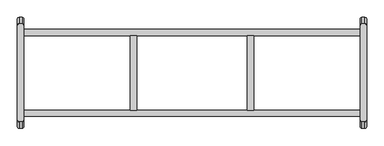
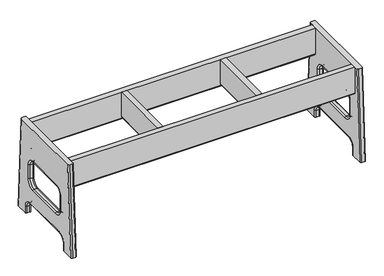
"""IFC4 building model written with IfcOpenShell, lengths in millimetres: furniture geometry, SSL-Childcraft_Outdoor-Bench : 2161365."""

from ifc_helpers import new_model, si_unit, point, frame, frame_2d, origin, place, context, project, spatial, polyline, circle_curve, ellipse_curve, trimmed, segment, composite_curve, outline, extrude, source, transform, mapped, element, save
from ifc_brep_helpers import plane_surface, cylinder_surface, revolved_surface, extruded_surface, advanced_brep


def furniture_a1ef9f8f(model_context):
    return source(origin(), model_context, "Body", "SolidModel", [
        advanced_brep(
        [(12.7652904, -293.6836882, 336.55), (17.5277904, -298.4461882, 336.55), (27.0527904, -298.4461882, 336.55), (31.8152904, -293.6836882, 336.55), (31.8152904, -11.1163118, 336.55), (27.0527904, -6.3538118, 336.55), (17.5277904, -6.3538118, 336.55), (12.7652904, -11.1163118, 336.55), (12.7652904, -312.7375, 0.0), (12.7652904, 7.9375, 0.0), (12.7652904, -34.1179199, 0.0), (12.7652904, -34.1179199, 25.4), (12.7652904, -63.4866699, 54.76875), (12.7652904, -241.3006417, 54.76875), (12.7652904, -270.6820917, 25.3873), (12.7652904, -270.6820917, 0.0), (12.7652904, -222.25, 219.8686466), (12.7652904, -251.61875, 190.4998966), (12.7652904, -251.61875, 139.6998966), (12.7652904, -222.25, 110.3311466), (12.7652904, -82.55, 110.3311466), (12.7652904, -53.18125, 139.6998966), (12.7652904, -53.18125, 190.4998966), (12.7652904, -82.55, 219.8686466), (17.5277904, -317.5, 0.0), (27.0527904, -317.5, 0.0), (31.8152904, -312.7375, 0.0), (27.0527904, -246.85625, 190.4998966), (27.0527904, -222.25, 215.1061466), (31.8152904, -222.25, 219.8686466), (31.8152904, -251.61875, 190.4998966), (17.5277904, -246.85625, 190.4998966), (17.5277904, -222.25, 215.1061466), (31.8152904, -251.61875, 139.6998966), (27.0527904, -246.85625, 139.6998966), (17.5277904, -246.85625, 139.6998966), (31.8152904, -222.25, 110.3311466), (27.0527904, -222.25, 115.0936466), (17.5277904, -222.25, 115.0936466), (31.8152904, -82.55, 110.3311466), (27.0527904, -82.55, 115.0936466), (17.5277904, -82.55, 115.0936466), (31.8152904, -53.18125, 139.6998966), (27.0527904, -57.94375, 139.6998966), (17.5277904, -57.94375, 139.6998966), (31.8152904, -53.18125, 190.4998966), (27.0527904, -57.94375, 190.4998966), (17.5277904, -57.94375, 190.4998966), (31.8152904, -82.55, 219.8686466), (27.0527904, -82.55, 215.1061466), (17.5277904, -82.55, 215.1061466), (27.0527904, -38.8804199, 0.0), (31.8152904, -34.1179199, 0.0), (31.8152904, -34.1179199, 25.4), (27.0527904, -38.8804199, 25.4), (17.5277904, -38.8804199, 0.0), (17.5277904, -38.8804199, 25.4), (31.8152904, -63.4866699, 54.76875), (27.0527904, -63.4866699, 50.00625), (17.5277904, -63.4866699, 50.00625), (31.8152904, -241.3006417, 54.76875), (27.0527904, -241.3006417, 50.00625), (17.5277904, -241.3006417, 50.00625), (31.8152904, -270.6820917, 25.3873), (27.0527904, -265.9195917, 25.3873), (17.5277904, -265.9195917, 25.3873), (31.8152904, -270.6820917, 0.0), (27.0527904, -265.9195917, 0.0), (17.5277904, -265.9195917, 0.0), (17.5277904, 12.7, 0.0), (27.0527904, 12.7, 0.0), (31.8152904, 7.9375, 0.0)],
        [
            (0, 1, circle_curve(frame((17.5277904, -293.6836882, 336.55), z_axis=(0.0, 0.0, 1.0), x_axis=(1.0, 0.0, 0.0)), 4.7625)),
            (1, 2),
            (2, 3, circle_curve(frame((27.0527904, -293.6836882, 336.55), z_axis=(0.0, 0.0, 1.0), x_axis=(1.0, 0.0, 0.0)), 4.7625)),
            (3, 4),
            (4, 5, circle_curve(frame((27.0527904, -11.1163118, 336.55), z_axis=(0.0, 0.0, 1.0), x_axis=(1.0, 0.0, 0.0)), 4.7625)),
            (5, 6),
            (6, 7, circle_curve(frame((17.5277904, -11.1163118, 336.55), z_axis=(0.0, 0.0, 1.0), x_axis=(1.0, 0.0, 0.0)), 4.7625)),
            (7, 0),
            (8, 0),
            (7, 9),
            (9, 10),
            (10, 11),
            (11, 12, circle_curve(frame((12.7652904, -63.4866699, 25.4), z_axis=(1.0, 0.0, 0.0), x_axis=(0.0, 1.0, 0.0)), 29.36875)),
            (12, 13),
            (13, 14, circle_curve(frame((12.7652904, -241.3006417, 25.3873), z_axis=(1.0, 0.0, 0.0), x_axis=(0.0, 0.0, 1.0)), 29.38145)),
            (14, 15),
            (15, 8),
            (16, 17, circle_curve(frame((12.7652904, -222.25, 190.4998966), z_axis=(1.0, 0.0, 0.0), x_axis=(0.0, 0.0, 1.0)), 29.36875)),
            (17, 18),
            (18, 19, circle_curve(frame((12.7652904, -222.25, 139.6998966), z_axis=(1.0, 0.0, 0.0), x_axis=(0.0, -1.0, 0.0)), 29.36875)),
            (19, 20),
            (20, 21, circle_curve(frame((12.7652904, -82.55, 139.6998966), z_axis=(1.0, 0.0, 0.0), x_axis=(0.0, 0.0, -1.0)), 29.36875)),
            (21, 22),
            (22, 23, circle_curve(frame((12.7652904, -82.55, 190.4998966), z_axis=(1.0, 0.0, 0.0), x_axis=(0.0, 1.0, 0.0)), 29.36875)),
            (23, 16),
            (8, 24, circle_curve(frame((17.5277904, -312.7375, 0.0), z_axis=(0.0, 0.0, 1.0), x_axis=(1.0, 0.0, 0.0)), 4.7625)),
            (24, 1),
            (24, 25),
            (25, 2),
            (25, 26, circle_curve(frame((27.0527904, -312.7375, 0.0), z_axis=(0.0, 0.0, 1.0), x_axis=(1.0, 0.0, 0.0)), 4.7625)),
            (26, 3),
            (27, 28, circle_curve(frame((27.0527904, -222.25, 190.4998966), z_axis=(-1.0, 0.0, 0.0), x_axis=(0.0, 0.0, 1.0)), 24.60625)),
            (28, 29, circle_curve(frame((27.0527904, -222.25, 219.8686466), z_axis=(0.0, -1.0, 0.0), x_axis=(0.0, 0.0, -1.0)), 4.7625)),
            (29, 30, circle_curve(frame((31.8152904, -222.25, 190.4998966), z_axis=(1.0, 0.0, 0.0), x_axis=(0.0, 0.0, 1.0)), 29.36875)),
            (30, 27, circle_curve(frame((27.0527904, -251.61875, 190.4998966), z_axis=(0.0, 0.0, 1.0), x_axis=(0.0, 1.0, 0.0)), 4.7625)),
            (27, 31),
            (31, 32, circle_curve(frame((17.5277904, -222.25, 190.4998966), z_axis=(-1.0, 0.0, 0.0), x_axis=(0.0, 0.0, 1.0)), 24.60625)),
            (32, 28),
            (31, 17, circle_curve(frame((17.5277904, -251.61875, 190.4998966), z_axis=(0.0, 0.0, 1.0), x_axis=(0.0, 1.0, 0.0)), 4.7625)),
            (16, 32, circle_curve(frame((17.5277904, -222.25, 219.8686466), z_axis=(0.0, -1.0, 0.0), x_axis=(0.0, 0.0, -1.0)), 4.7625)),
            (30, 33),
            (33, 34, circle_curve(frame((27.0527904, -251.61875, 139.6998966), z_axis=(0.0, 0.0, 1.0), x_axis=(0.0, 1.0, 0.0)), 4.7625)),
            (34, 27),
            (34, 35),
            (35, 31),
            (35, 18, circle_curve(frame((17.5277904, -251.61875, 139.6998966), z_axis=(0.0, 0.0, 1.0), x_axis=(0.0, 1.0, 0.0)), 4.7625)),
            (33, 36, circle_curve(frame((31.8152904, -222.25, 139.6998966), z_axis=(1.0, 0.0, 0.0), x_axis=(0.0, -1.0, 0.0)), 29.36875)),
            (36, 37, circle_curve(frame((27.0527904, -222.25, 110.3311466), z_axis=(0.0, -1.0, 0.0), x_axis=(0.0, 0.0, 1.0)), 4.7625)),
            (37, 34, circle_curve(frame((27.0527904, -222.25, 139.6998966), z_axis=(-1.0, 0.0, 0.0), x_axis=(0.0, -1.0, 0.0)), 24.60625)),
            (37, 38),
            (38, 35, circle_curve(frame((17.5277904, -222.25, 139.6998966), z_axis=(-1.0, 0.0, 0.0), x_axis=(0.0, -1.0, 0.0)), 24.60625)),
            (38, 19, circle_curve(frame((17.5277904, -222.25, 110.3311466), z_axis=(0.0, -1.0, 0.0), x_axis=(0.0, 0.0, 1.0)), 4.7625)),
            (36, 39),
            (39, 40, circle_curve(frame((27.0527904, -82.55, 110.3311466), z_axis=(0.0, -1.0, 0.0), x_axis=(0.0, 0.0, 1.0)), 4.7625)),
            (40, 37),
            (40, 41),
            (41, 38),
            (41, 20, circle_curve(frame((17.5277904, -82.55, 110.3311466), z_axis=(0.0, -1.0, 0.0), x_axis=(0.0, 0.0, 1.0)), 4.7625)),
            (39, 42, circle_curve(frame((31.8152904, -82.55, 139.6998966), z_axis=(1.0, 0.0, 0.0), x_axis=(0.0, 0.0, -1.0)), 29.36875)),
            (42, 43, circle_curve(frame((27.0527904, -53.18125, 139.6998966), z_axis=(0.0, 0.0, -1.0), x_axis=(0.0, -1.0, 0.0)), 4.7625)),
            (43, 40, circle_curve(frame((27.0527904, -82.55, 139.6998966), z_axis=(-1.0, 0.0, 0.0), x_axis=(0.0, 0.0, -1.0)), 24.60625)),
            (43, 44),
            (44, 41, circle_curve(frame((17.5277904, -82.55, 139.6998966), z_axis=(-1.0, 0.0, 0.0), x_axis=(0.0, 0.0, -1.0)), 24.60625)),
            (44, 21, circle_curve(frame((17.5277904, -53.18125, 139.6998966), z_axis=(0.0, 0.0, -1.0), x_axis=(0.0, -1.0, 0.0)), 4.7625)),
            (42, 45),
            (45, 46, circle_curve(frame((27.0527904, -53.18125, 190.4998966), z_axis=(0.0, 0.0, -1.0), x_axis=(0.0, -1.0, 0.0)), 4.7625)),
            (46, 43),
            (46, 47),
            (47, 44),
            (47, 22, circle_curve(frame((17.5277904, -53.18125, 190.4998966), z_axis=(0.0, 0.0, -1.0), x_axis=(0.0, -1.0, 0.0)), 4.7625)),
            (45, 48, circle_curve(frame((31.8152904, -82.55, 190.4998966), z_axis=(1.0, 0.0, 0.0), x_axis=(0.0, 1.0, 0.0)), 29.36875)),
            (48, 49, circle_curve(frame((27.0527904, -82.55, 219.8686466), z_axis=(0.0, 1.0, 0.0), x_axis=(0.0, 0.0, -1.0)), 4.7625)),
            (49, 46, circle_curve(frame((27.0527904, -82.55, 190.4998966), z_axis=(-1.0, 0.0, 0.0), x_axis=(0.0, 1.0, 0.0)), 24.60625)),
            (49, 50),
            (50, 47, circle_curve(frame((17.5277904, -82.55, 190.4998966), z_axis=(-1.0, 0.0, 0.0), x_axis=(0.0, 1.0, 0.0)), 24.60625)),
            (50, 23, circle_curve(frame((17.5277904, -82.55, 219.8686466), z_axis=(0.0, 1.0, 0.0), x_axis=(0.0, 0.0, -1.0)), 4.7625)),
            (28, 49),
            (48, 29),
            (32, 50),
            (51, 52, circle_curve(frame((27.0527904, -34.1179199, 0.0), z_axis=(0.0, 0.0, 1.0), x_axis=(0.0, -1.0, 0.0)), 4.7625)),
            (52, 53),
            (53, 54, circle_curve(frame((27.0527904, -34.1179199, 25.4), z_axis=(0.0, 0.0, -1.0), x_axis=(0.0, -1.0, 0.0)), 4.7625)),
            (54, 51),
            (55, 51),
            (54, 56),
            (56, 55),
            (10, 55, circle_curve(frame((17.5277904, -34.1179199, 0.0), z_axis=(0.0, 0.0, 1.0), x_axis=(0.0, -1.0, 0.0)), 4.7625)),
            (56, 11, circle_curve(frame((17.5277904, -34.1179199, 25.4), z_axis=(0.0, 0.0, -1.0), x_axis=(0.0, -1.0, 0.0)), 4.7625)),
            (53, 57, circle_curve(frame((31.8152904, -63.4866699, 25.4), z_axis=(1.0, 0.0, 0.0), x_axis=(0.0, 1.0, 0.0)), 29.36875)),
            (57, 58, circle_curve(frame((27.0527904, -63.4866699, 54.76875), z_axis=(0.0, 1.0, 0.0), x_axis=(0.0, 0.0, -1.0)), 4.7625)),
            (58, 54, circle_curve(frame((27.0527904, -63.4866699, 25.4), z_axis=(-1.0, 0.0, 0.0), x_axis=(0.0, 1.0, 0.0)), 24.60625)),
            (58, 59),
            (59, 56, circle_curve(frame((17.5277904, -63.4866699, 25.4), z_axis=(-1.0, 0.0, 0.0), x_axis=(0.0, 1.0, 0.0)), 24.60625)),
            (59, 12, circle_curve(frame((17.5277904, -63.4866699, 54.76875), z_axis=(0.0, 1.0, 0.0), x_axis=(0.0, 0.0, -1.0)), 4.7625)),
            (57, 60),
            (60, 61, circle_curve(frame((27.0527904, -241.3006417, 54.76875), z_axis=(0.0, 1.0, 0.0), x_axis=(0.0, 0.0, -1.0)), 4.7625)),
            (61, 58),
            (61, 62),
            (62, 59),
            (62, 13, circle_curve(frame((17.5277904, -241.3006417, 54.76875), z_axis=(0.0, 1.0, 0.0), x_axis=(0.0, 0.0, -1.0)), 4.7625)),
            (60, 63, circle_curve(frame((31.8152904, -241.3006417, 25.3873), z_axis=(1.0, 0.0, 0.0), x_axis=(0.0, 0.0, 1.0)), 29.38145)),
            (63, 64, circle_curve(frame((27.0527904, -270.6820917, 25.3873), z_axis=(0.0, 0.0, 1.0), x_axis=(0.0, 1.0, 0.0)), 4.7625)),
            (64, 61, circle_curve(frame((27.0527904, -241.3006417, 25.3873), z_axis=(-1.0, 0.0, 0.0), x_axis=(0.0, 0.0, 1.0)), 24.61895)),
            (64, 65),
            (65, 62, circle_curve(frame((17.5277904, -241.3006417, 25.3873), z_axis=(-1.0, 0.0, 0.0), x_axis=(0.0, 0.0, 1.0)), 24.61895)),
            (65, 14, circle_curve(frame((17.5277904, -270.6820917, 25.3873), z_axis=(0.0, 0.0, 1.0), x_axis=(0.0, 1.0, 0.0)), 4.7625)),
            (63, 66),
            (66, 67, circle_curve(frame((27.0527904, -270.6820917, 0.0), z_axis=(0.0, 0.0, 1.0), x_axis=(0.0, 1.0, 0.0)), 4.7625)),
            (67, 64),
            (67, 68),
            (68, 65),
            (68, 15, circle_curve(frame((17.5277904, -270.6820917, 0.0), z_axis=(0.0, 0.0, 1.0), x_axis=(0.0, 1.0, 0.0)), 4.7625)),
            (66, 26),
            (9, 69, circle_curve(frame((17.5277904, 7.9375, 0.0), z_axis=(0.0, 0.0, -1.0), x_axis=(1.0, 0.0, 0.0)), 4.7625)),
            (69, 70),
            (70, 71, circle_curve(frame((27.0527904, 7.9375, 0.0), z_axis=(0.0, 0.0, -1.0), x_axis=(1.0, 0.0, 0.0)), 4.7625)),
            (71, 52),
            (71, 4),
            (6, 69),
            (5, 70),
        ],
        [
            plane_surface(frame((22.2902904, -295.0066049, 336.55), z_axis=(0.0, 0.0, 1.0), x_axis=(0.0, -1.0, 0.0))),
            plane_surface(frame((12.7652904, -312.340625, 0.0), z_axis=(-1.0, 0.0, 0.0), x_axis=(0.0, -1.0, 0.0))),
            extruded_surface(trimmed(circle_curve(frame((17.5277904, -312.7375, 0.0), z_axis=(0.0, 0.0, 1.0), x_axis=(1.0, 0.0, 0.0)), 4.7625), [point((12.7652904, -312.7375, 0.0))], [point((17.5277904, -317.5, 0.0))], True, "CARTESIAN"), (0.0, 19.053811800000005, 336.55), 337.0889352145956),
            plane_surface(frame((22.2902904, -317.5, 0.0), z_axis=(0.0, -0.9984012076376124, 0.056524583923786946), x_axis=(1.0, 0.0, 0.0))),
            extruded_surface(trimmed(circle_curve(frame((27.0527904, -312.7375, 0.0), z_axis=(0.0, 0.0, 1.0), x_axis=(1.0, 0.0, 0.0)), 4.7625), [point((27.0527904, -317.5, 0.0))], [point((31.8152904, -312.7375, 0.0))], True, "CARTESIAN"), (0.0, 19.053811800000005, 336.55), 337.0889352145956),
            revolved_surface(trimmed(ellipse_curve(frame((27.0527904, -222.25, 219.8686466), z_axis=(0.0, 1.0, 0.0), x_axis=(0.0, 0.0, -1.0)), 4.7625, 4.7625), [point((31.8152904, -222.25, 219.8686466))], [point((27.0527904, -222.25, 215.1061466))], True, "CARTESIAN"), (0.0, -222.25, 190.4998966), (1.0, 0.0, 0.0)),
            revolved_surface(polyline([(27.0527904, -222.25, 215.1061466), (17.5277904, -222.25, 215.1061466)]), (0.0, -222.25, 190.4998966), (1.0, 0.0, 0.0)),
            revolved_surface(trimmed(ellipse_curve(frame((17.5277904, -222.25, 219.8686466), z_axis=(0.0, 1.0, 0.0), x_axis=(0.0, 0.0, -1.0)), 4.7625, 4.7625), [point((17.5277904, -222.25, 215.1061466))], [point((12.7652904, -222.25, 219.8686466))], True, "CARTESIAN"), (0.0, -222.25, 190.4998966), (1.0, 0.0, 0.0)),
            cylinder_surface(frame((27.0527904, -251.61875, 190.4998966), z_axis=(0.0, 0.0, 1.0), x_axis=(0.0, 1.0, 0.0)), 4.7625),
            plane_surface(frame((27.0527904, -246.85625, 190.4998966), z_axis=(0.0, 1.0, 0.0), x_axis=(0.0, 0.0, -1.0))),
            cylinder_surface(frame((17.5277904, -251.61875, 190.4998966), z_axis=(0.0, 0.0, 1.0), x_axis=(0.0, 1.0, 0.0)), 4.7625),
            revolved_surface(trimmed(ellipse_curve(frame((27.0527904, -251.61875, 139.6998966), z_axis=(0.0, 0.0, 1.0), x_axis=(0.0, 1.0, 0.0)), 4.7625, 4.7625), [point((31.8152904, -251.61875, 139.6998966))], [point((27.0527904, -246.85625, 139.6998966))], True, "CARTESIAN"), (0.0, -222.25, 139.6998966), (1.0, 0.0, 0.0)),
            revolved_surface(polyline([(27.0527904, -246.85625, 139.6998966), (17.5277904, -246.85625, 139.6998966)]), (0.0, -222.25, 139.6998966), (1.0, 0.0, 0.0)),
            revolved_surface(trimmed(ellipse_curve(frame((17.5277904, -251.61875, 139.6998966), z_axis=(0.0, 0.0, 1.0), x_axis=(0.0, 1.0, 0.0)), 4.7625, 4.7625), [point((17.5277904, -246.85625, 139.6998966))], [point((12.7652904, -251.61875, 139.6998966))], True, "CARTESIAN"), (0.0, -222.25, 139.6998966), (1.0, 0.0, 0.0)),
            cylinder_surface(frame((27.0527904, -222.25, 110.3311466), z_axis=(0.0, -1.0, 0.0), x_axis=(0.0, 0.0, 1.0)), 4.7625),
            plane_surface(frame((27.0527904, -222.25, 115.0936466), z_axis=(0.0, 0.0, 1.0), x_axis=(0.0, 1.0, 0.0))),
            cylinder_surface(frame((17.5277904, -222.25, 110.3311466), z_axis=(0.0, -1.0, 0.0), x_axis=(0.0, 0.0, 1.0)), 4.7625),
            revolved_surface(trimmed(ellipse_curve(frame((27.0527904, -82.55, 110.3311466), z_axis=(0.0, -1.0, 0.0), x_axis=(0.0, 0.0, 1.0)), 4.7625, 4.7625), [point((31.8152904, -82.55, 110.3311466))], [point((27.0527904, -82.55, 115.0936466))], True, "CARTESIAN"), (0.0, -82.55, 139.6998966), (1.0, 0.0, 0.0)),
            revolved_surface(polyline([(27.0527904, -82.55, 115.09364659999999), (17.5277904, -82.55, 115.09364659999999)]), (0.0, -82.55, 139.6998966), (1.0, 0.0, 0.0)),
            revolved_surface(trimmed(ellipse_curve(frame((17.5277904, -82.55, 110.3311466), z_axis=(0.0, -1.0, 0.0), x_axis=(0.0, 0.0, 1.0)), 4.7625, 4.7625), [point((17.5277904, -82.55, 115.0936466))], [point((12.7652904, -82.55, 110.3311466))], True, "CARTESIAN"), (0.0, -82.55, 139.6998966), (1.0, 0.0, 0.0)),
            cylinder_surface(frame((27.0527904, -53.18125, 139.6998966), z_axis=(0.0, 0.0, -1.0), x_axis=(0.0, -1.0, 0.0)), 4.7625),
            plane_surface(frame((27.0527904, -57.94375, 139.6998966), z_axis=(0.0, -1.0, 0.0), x_axis=(0.0, 0.0, 1.0))),
            cylinder_surface(frame((17.5277904, -53.18125, 139.6998966), z_axis=(0.0, 0.0, -1.0), x_axis=(0.0, -1.0, 0.0)), 4.7625),
            revolved_surface(trimmed(ellipse_curve(frame((27.0527904, -53.18125, 190.4998966), z_axis=(0.0, 0.0, -1.0), x_axis=(0.0, -1.0, 0.0)), 4.7625, 4.7625), [point((31.8152904, -53.18125, 190.4998966))], [point((27.0527904, -57.94375, 190.4998966))], True, "CARTESIAN"), (0.0, -82.55, 190.4998966), (1.0, 0.0, 0.0)),
            revolved_surface(polyline([(27.0527904, -57.943749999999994, 190.4998966), (17.5277904, -57.943749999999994, 190.4998966)]), (0.0, -82.55, 190.4998966), (1.0, 0.0, 0.0)),
            revolved_surface(trimmed(ellipse_curve(frame((17.5277904, -53.18125, 190.4998966), z_axis=(0.0, 0.0, -1.0), x_axis=(0.0, -1.0, 0.0)), 4.7625, 4.7625), [point((17.5277904, -57.94375, 190.4998966))], [point((12.7652904, -53.18125, 190.4998966))], True, "CARTESIAN"), (0.0, -82.55, 190.4998966), (1.0, 0.0, 0.0)),
            cylinder_surface(frame((27.0527904, -82.55, 219.8686466), z_axis=(0.0, 1.0, 0.0), x_axis=(0.0, 0.0, -1.0)), 4.7625),
            plane_surface(frame((27.0527904, -82.55, 215.1061466), z_axis=(0.0, 0.0, -1.0), x_axis=(0.0, -1.0, 0.0))),
            cylinder_surface(frame((17.5277904, -82.55, 219.8686466), z_axis=(0.0, 1.0, 0.0), x_axis=(0.0, 0.0, -1.0)), 4.7625),
            cylinder_surface(frame((27.0527904, -34.1179199, 0.0), z_axis=(0.0, 0.0, -1.0), x_axis=(0.0, -1.0, 0.0)), 4.7625),
            plane_surface(frame((27.0527904, -38.8804199, 0.0), z_axis=(0.0, -1.0, 0.0), x_axis=(0.0, 0.0, 1.0))),
            cylinder_surface(frame((17.5277904, -34.1179199, 0.0), z_axis=(0.0, 0.0, -1.0), x_axis=(0.0, -1.0, 0.0)), 4.7625),
            revolved_surface(trimmed(ellipse_curve(frame((27.0527904, -34.1179199, 25.4), z_axis=(0.0, 0.0, -1.0), x_axis=(0.0, -1.0, 0.0)), 4.7625, 4.7625), [point((31.8152904, -34.1179199, 25.4))], [point((27.0527904, -38.8804199, 25.4))], True, "CARTESIAN"), (0.0, -63.4866699, 25.4), (1.0, 0.0, 0.0)),
            revolved_surface(polyline([(27.0527904, -38.88041990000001, 25.4), (17.5277904, -38.88041990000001, 25.4)]), (0.0, -63.4866699, 25.4), (1.0, 0.0, 0.0)),
            revolved_surface(trimmed(ellipse_curve(frame((17.5277904, -34.1179199, 25.4), z_axis=(0.0, 0.0, -1.0), x_axis=(0.0, -1.0, 0.0)), 4.7625, 4.7625), [point((17.5277904, -38.8804199, 25.4))], [point((12.7652904, -34.1179199, 25.4))], True, "CARTESIAN"), (0.0, -63.4866699, 25.4), (1.0, 0.0, 0.0)),
            cylinder_surface(frame((27.0527904, -63.4866699, 54.76875), z_axis=(0.0, 1.0, 0.0), x_axis=(0.0, 0.0, -1.0)), 4.7625),
            plane_surface(frame((27.0527904, -63.4866699, 50.00625), z_axis=(0.0, 0.0, -1.0), x_axis=(0.0, -1.0, 0.0))),
            cylinder_surface(frame((17.5277904, -63.4866699, 54.76875), z_axis=(0.0, 1.0, 0.0), x_axis=(0.0, 0.0, -1.0)), 4.7625),
            revolved_surface(trimmed(ellipse_curve(frame((27.0527904, -241.3006417, 54.76875), z_axis=(0.0, 1.0, 0.0), x_axis=(0.0, 0.0, -1.0)), 4.7625, 4.7625), [point((31.8152904, -241.3006417, 54.76875))], [point((27.0527904, -241.3006417, 50.00625))], True, "CARTESIAN"), (0.0, -241.3006417, 25.3873), (1.0, 0.0, 0.0)),
            revolved_surface(polyline([(27.0527904, -241.3006417, 50.00625), (17.5277904, -241.3006417, 50.00625)]), (0.0, -241.3006417, 25.3873), (1.0, 0.0, 0.0)),
            revolved_surface(trimmed(ellipse_curve(frame((17.5277904, -241.3006417, 54.76875), z_axis=(0.0, 1.0, 0.0), x_axis=(0.0, 0.0, -1.0)), 4.7625, 4.7625), [point((17.5277904, -241.3006417, 50.00625))], [point((12.7652904, -241.3006417, 54.76875))], True, "CARTESIAN"), (0.0, -241.3006417, 25.3873), (1.0, 0.0, 0.0)),
            cylinder_surface(frame((27.0527904, -270.6820917, 25.3873), z_axis=(0.0, 0.0, 1.0), x_axis=(0.0, 1.0, 0.0)), 4.7625),
            plane_surface(frame((27.0527904, -265.9195917, 25.3873), z_axis=(0.0, 1.0, 0.0), x_axis=(0.0, 0.0, -1.0))),
            cylinder_surface(frame((17.5277904, -270.6820917, 25.3873), z_axis=(0.0, 0.0, 1.0), x_axis=(0.0, 1.0, 0.0)), 4.7625),
            plane_surface(frame((1044.5097096, -314.0604167, 0.0), z_axis=(0.0, 0.0, -1.0), x_axis=(-1.0, 0.0, 0.0))),
            plane_surface(frame((1054.0347096, -33.3241699, 0.0), z_axis=(0.0, 0.0, -1.0), x_axis=(-1.0, 0.0, 0.0))),
            plane_surface(frame((31.8152904, -312.340625, 0.0), z_axis=(1.0, 0.0, 0.0), x_axis=(0.0, 1.0, 0.0))),
            extruded_surface(trimmed(circle_curve(frame((17.5277904, 7.9375, 0.0), z_axis=(0.0, 0.0, 1.0), x_axis=(1.0, 0.0, 0.0)), 4.7625), [point((17.5277904, 12.7, 0.0))], [point((12.7652904, 7.9375, 0.0))], True, "CARTESIAN"), (0.0, -19.0538118, 336.55), 337.0889352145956),
            plane_surface(frame((22.2902904, 12.7, 0.0), z_axis=(0.0, 0.9984012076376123, 0.056524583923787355), x_axis=(-1.0, 0.0, 0.0))),
            extruded_surface(trimmed(circle_curve(frame((27.0527904, 7.9375, 0.0), z_axis=(0.0, 0.0, 1.0), x_axis=(1.0, 0.0, 0.0)), 4.7625), [point((31.8152904, 7.9375, 0.0))], [point((27.0527904, 12.7, 0.0))], True, "CARTESIAN"), (0.0, -19.0538118, 336.55), 337.0889352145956),
        ],
        [
            (0, [[1, 2, 3, 4, 5, 6, 7, 8]]),
            (1, [[9, -8, 10, 11, 12, 13, 14, 15, 16, 17], [18, 19, 20, 21, 22, 23, 24, 25]]),
            (2, [[-1, -9, 26, 27]]),
            (3, [[-2, -27, 28, 29]]),
            (4, [[-3, -29, 30, 31]]),
            (5, [[32, 33, 34, 35]]),
            (6, [[-32, 36, 37, 38]]),
            (7, [[-37, 39, -18, 40]]),
            (8, [[-35, 41, 42, 43]]),
            (9, [[-36, -43, 44, 45]]),
            (10, [[-39, -45, 46, -19]]),
            (11, [[-42, 47, 48, 49]]),
            (12, [[-44, -49, 50, 51]]),
            (13, [[-46, -51, 52, -20]]),
            (14, [[-48, 53, 54, 55]]),
            (15, [[-50, -55, 56, 57]]),
            (16, [[-52, -57, 58, -21]]),
            (17, [[-54, 59, 60, 61]]),
            (18, [[-56, -61, 62, 63]]),
            (19, [[-58, -63, 64, -22]]),
            (20, [[-60, 65, 66, 67]]),
            (21, [[-62, -67, 68, 69]]),
            (22, [[-64, -69, 70, -23]]),
            (23, [[-66, 71, 72, 73]]),
            (24, [[-68, -73, 74, 75]]),
            (25, [[-70, -75, 76, -24]]),
            (26, [[-33, 77, -72, 78]]),
            (27, [[-38, 79, -74, -77]]),
            (28, [[-40, -25, -76, -79]]),
            (29, [[80, 81, 82, 83]]),
            (30, [[84, -83, 85, 86]]),
            (31, [[87, -86, 88, -12]]),
            (32, [[89, 90, 91, -82]]),
            (33, [[-85, -91, 92, 93]]),
            (34, [[-88, -93, 94, -13]]),
            (35, [[95, 96, 97, -90]]),
            (36, [[-92, -97, 98, 99]]),
            (37, [[-14, -94, -99, 100]]),
            (38, [[101, 102, 103, -96]]),
            (39, [[-98, -103, 104, 105]]),
            (40, [[-15, -100, -105, 106]]),
            (41, [[107, 108, 109, -102]]),
            (42, [[-104, -109, 110, 111]]),
            (43, [[-16, -106, -111, 112]]),
            (44, [[-30, -28, -26, -17, -112, -110, -108, 113]]),
            (45, [[-80, -84, -87, -11, 114, 115, 116, 117]]),
            (46, [[-31, -113, -107, -101, -95, -89, -81, -117, 118, -4], [-34, -78, -71, -65, -59, -53, -47, -41]]),
            (47, [[-7, 119, -114, -10]]),
            (48, [[-6, 120, -115, -119]]),
            (49, [[-5, -118, -116, -120]]),
        ],
    ),
        advanced_brep(
        [(1039.7472096, -246.85625, 190.4998966), (1039.7472096, -222.25, 215.1061466), (1049.2722096, -222.25, 215.1061466), (1049.2722096, -246.85625, 190.4998966), (1034.9847096, -251.61875, 190.4998966), (1034.9847096, -222.25, 219.8686466), (1054.0347096, -222.25, 219.8686466), (1054.0347096, -251.61875, 190.4998966), (1049.2722096, -246.85625, 139.6998966), (1039.7472096, -246.85625, 139.6998966), (1034.9847096, -251.61875, 139.6998966), (1054.0347096, -251.61875, 139.6998966), (1049.2722096, -222.25, 115.0936466), (1039.7472096, -222.25, 115.0936466), (1034.9847096, -222.25, 110.3311466), (1054.0347096, -222.25, 110.3311466), (1049.2722096, -82.55, 115.0936466), (1039.7472096, -82.55, 115.0936466), (1034.9847096, -82.55, 110.3311466), (1054.0347096, -82.55, 110.3311466), (1049.2722096, -57.94375, 139.6998966), (1039.7472096, -57.94375, 139.6998966), (1034.9847096, -53.18125, 139.6998966), (1054.0347096, -53.18125, 139.6998966), (1049.2722096, -57.94375, 190.4998966), (1039.7472096, -57.94375, 190.4998966), (1034.9847096, -53.18125, 190.4998966), (1054.0347096, -53.18125, 190.4998966), (1049.2722096, -82.55, 215.1061466), (1039.7472096, -82.55, 215.1061466), (1034.9847096, -82.55, 219.8686466), (1054.0347096, -82.55, 219.8686466), (1049.2722096, -38.8804199, 0.0), (1054.0347096, -34.1179199, 0.0), (1054.0347096, -34.1179199, 25.4), (1049.2722096, -38.8804199, 25.4), (1039.7472096, -38.8804199, 0.0), (1039.7472096, -38.8804199, 25.4), (1034.9847096, -34.1179199, 0.0), (1034.9847096, -34.1179199, 25.4), (1054.0347096, -63.4866699, 54.76875), (1049.2722096, -63.4866699, 50.00625), (1039.7472096, -63.4866699, 50.00625), (1034.9847096, -63.4866699, 54.76875), (1054.0347096, -241.3006417, 54.76875), (1049.2722096, -241.3006417, 50.00625), (1039.7472096, -241.3006417, 50.00625), (1034.9847096, -241.3006417, 54.76875), (1054.0347096, -270.6820917, 25.3873), (1049.2722096, -265.9195917, 25.3873), (1039.7472096, -265.9195917, 25.3873), (1034.9847096, -270.6820917, 25.3873), (1054.0347096, -270.6820917, 0.0), (1049.2722096, -265.9195917, 0.0), (1039.7472096, -265.9195917, 0.0), (1034.9847096, -270.6820917, 0.0), (1034.9847096, -293.6836882, 336.55), (1039.7472096, -298.4461882, 336.55), (1049.2722096, -298.4461882, 336.55), (1054.0347096, -293.6836882, 336.55), (1054.0347096, -11.1163118, 336.55), (1049.2722096, -6.3538118, 336.55), (1039.7472096, -6.3538118, 336.55), (1034.9847096, -11.1163118, 336.55), (1054.0347096, -312.7375, 0.0), (1049.2722096, -317.5, 0.0), (1039.7472096, -317.5, 0.0), (1034.9847096, -312.7375, 0.0), (1054.0347096, 7.9375, 0.0), (1034.9847096, 7.9375, 0.0), (1039.7472096, 12.7, 0.0), (1049.2722096, 12.7, 0.0)],
        [
            (0, 1, circle_curve(frame((1039.7472096, -222.25, 190.4998966), z_axis=(-1.0, 0.0, 0.0), x_axis=(0.0, 0.0, 1.0)), 24.60625)),
            (1, 2),
            (2, 3, circle_curve(frame((1049.2722096, -222.25, 190.4998966), z_axis=(1.0, 0.0, 0.0), x_axis=(0.0, 0.0, 1.0)), 24.60625)),
            (3, 0),
            (0, 4, circle_curve(frame((1039.7472096, -251.61875, 190.4998966), z_axis=(0.0, 0.0, 1.0), x_axis=(0.0, 1.0, 0.0)), 4.7625)),
            (4, 5, circle_curve(frame((1034.9847096, -222.25, 190.4998966), z_axis=(-1.0, 0.0, 0.0), x_axis=(0.0, 0.0, 1.0)), 29.36875)),
            (5, 1, circle_curve(frame((1039.7472096, -222.25, 219.8686466), z_axis=(0.0, -1.0, 0.0), x_axis=(0.0, 0.0, -1.0)), 4.7625)),
            (2, 6, circle_curve(frame((1049.2722096, -222.25, 219.8686466), z_axis=(0.0, -1.0, 0.0), x_axis=(0.0, 0.0, -1.0)), 4.7625)),
            (6, 7, circle_curve(frame((1054.0347096, -222.25, 190.4998966), z_axis=(1.0, 0.0, 0.0), x_axis=(0.0, 0.0, 1.0)), 29.36875)),
            (7, 3, circle_curve(frame((1049.2722096, -251.61875, 190.4998966), z_axis=(0.0, 0.0, 1.0), x_axis=(0.0, 1.0, 0.0)), 4.7625)),
            (3, 8),
            (8, 9),
            (9, 0),
            (9, 10, circle_curve(frame((1039.7472096, -251.61875, 139.6998966), z_axis=(0.0, 0.0, 1.0), x_axis=(0.0, 1.0, 0.0)), 4.7625)),
            (10, 4),
            (7, 11),
            (11, 8, circle_curve(frame((1049.2722096, -251.61875, 139.6998966), z_axis=(0.0, 0.0, 1.0), x_axis=(0.0, 1.0, 0.0)), 4.7625)),
            (8, 12, circle_curve(frame((1049.2722096, -222.25, 139.6998966), z_axis=(1.0, 0.0, 0.0), x_axis=(0.0, -1.0, 0.0)), 24.60625)),
            (12, 13),
            (13, 9, circle_curve(frame((1039.7472096, -222.25, 139.6998966), z_axis=(-1.0, 0.0, 0.0), x_axis=(0.0, -1.0, 0.0)), 24.60625)),
            (13, 14, circle_curve(frame((1039.7472096, -222.25, 110.3311466), z_axis=(0.0, -1.0, 0.0), x_axis=(0.0, 0.0, 1.0)), 4.7625)),
            (14, 10, circle_curve(frame((1034.9847096, -222.25, 139.6998966), z_axis=(-1.0, 0.0, 0.0), x_axis=(0.0, -1.0, 0.0)), 29.36875)),
            (11, 15, circle_curve(frame((1054.0347096, -222.25, 139.6998966), z_axis=(1.0, 0.0, 0.0), x_axis=(0.0, -1.0, 0.0)), 29.36875)),
            (15, 12, circle_curve(frame((1049.2722096, -222.25, 110.3311466), z_axis=(0.0, -1.0, 0.0), x_axis=(0.0, 0.0, 1.0)), 4.7625)),
            (12, 16),
            (16, 17),
            (17, 13),
            (17, 18, circle_curve(frame((1039.7472096, -82.55, 110.3311466), z_axis=(0.0, -1.0, 0.0), x_axis=(0.0, 0.0, 1.0)), 4.7625)),
            (18, 14),
            (15, 19),
            (19, 16, circle_curve(frame((1049.2722096, -82.55, 110.3311466), z_axis=(0.0, -1.0, 0.0), x_axis=(0.0, 0.0, 1.0)), 4.7625)),
            (16, 20, circle_curve(frame((1049.2722096, -82.55, 139.6998966), z_axis=(1.0, 0.0, 0.0), x_axis=(0.0, 0.0, -1.0)), 24.60625)),
            (20, 21),
            (21, 17, circle_curve(frame((1039.7472096, -82.55, 139.6998966), z_axis=(-1.0, 0.0, 0.0), x_axis=(0.0, 0.0, -1.0)), 24.60625)),
            (21, 22, circle_curve(frame((1039.7472096, -53.18125, 139.6998966), z_axis=(0.0, 0.0, -1.0), x_axis=(0.0, -1.0, 0.0)), 4.7625)),
            (22, 18, circle_curve(frame((1034.9847096, -82.55, 139.6998966), z_axis=(-1.0, 0.0, 0.0), x_axis=(0.0, 0.0, -1.0)), 29.36875)),
            (19, 23, circle_curve(frame((1054.0347096, -82.55, 139.6998966), z_axis=(1.0, 0.0, 0.0), x_axis=(0.0, 0.0, -1.0)), 29.36875)),
            (23, 20, circle_curve(frame((1049.2722096, -53.18125, 139.6998966), z_axis=(0.0, 0.0, -1.0), x_axis=(0.0, -1.0, 0.0)), 4.7625)),
            (20, 24),
            (24, 25),
            (25, 21),
            (25, 26, circle_curve(frame((1039.7472096, -53.18125, 190.4998966), z_axis=(0.0, 0.0, -1.0), x_axis=(0.0, -1.0, 0.0)), 4.7625)),
            (26, 22),
            (23, 27),
            (27, 24, circle_curve(frame((1049.2722096, -53.18125, 190.4998966), z_axis=(0.0, 0.0, -1.0), x_axis=(0.0, -1.0, 0.0)), 4.7625)),
            (24, 28, circle_curve(frame((1049.2722096, -82.55, 190.4998966), z_axis=(1.0, 0.0, 0.0), x_axis=(0.0, 1.0, 0.0)), 24.60625)),
            (28, 29),
            (29, 25, circle_curve(frame((1039.7472096, -82.55, 190.4998966), z_axis=(-1.0, 0.0, 0.0), x_axis=(0.0, 1.0, 0.0)), 24.60625)),
            (29, 30, circle_curve(frame((1039.7472096, -82.55, 219.8686466), z_axis=(0.0, 1.0, 0.0), x_axis=(0.0, 0.0, -1.0)), 4.7625)),
            (30, 26, circle_curve(frame((1034.9847096, -82.55, 190.4998966), z_axis=(-1.0, 0.0, 0.0), x_axis=(0.0, 1.0, 0.0)), 29.36875)),
            (27, 31, circle_curve(frame((1054.0347096, -82.55, 190.4998966), z_axis=(1.0, 0.0, 0.0), x_axis=(0.0, 1.0, 0.0)), 29.36875)),
            (31, 28, circle_curve(frame((1049.2722096, -82.55, 219.8686466), z_axis=(0.0, 1.0, 0.0), x_axis=(0.0, 0.0, -1.0)), 4.7625)),
            (1, 29),
            (28, 2),
            (5, 30),
            (31, 6),
            (32, 33, circle_curve(frame((1049.2722096, -34.1179199, 0.0), z_axis=(0.0, 0.0, 1.0), x_axis=(0.0, -1.0, 0.0)), 4.7625)),
            (33, 34),
            (34, 35, circle_curve(frame((1049.2722096, -34.1179199, 25.4), z_axis=(0.0, 0.0, -1.0), x_axis=(0.0, -1.0, 0.0)), 4.7625)),
            (35, 32),
            (36, 32),
            (35, 37),
            (37, 36),
            (38, 36, circle_curve(frame((1039.7472096, -34.1179199, 0.0), z_axis=(0.0, 0.0, 1.0), x_axis=(0.0, -1.0, 0.0)), 4.7625)),
            (37, 39, circle_curve(frame((1039.7472096, -34.1179199, 25.4), z_axis=(0.0, 0.0, -1.0), x_axis=(0.0, -1.0, 0.0)), 4.7625)),
            (39, 38),
            (34, 40, circle_curve(frame((1054.0347096, -63.4866699, 25.4), z_axis=(1.0, 0.0, 0.0), x_axis=(0.0, 1.0, 0.0)), 29.36875)),
            (40, 41, circle_curve(frame((1049.2722096, -63.4866699, 54.76875), z_axis=(0.0, 1.0, 0.0), x_axis=(0.0, 0.0, -1.0)), 4.7625)),
            (41, 35, circle_curve(frame((1049.2722096, -63.4866699, 25.4), z_axis=(-1.0, 0.0, 0.0), x_axis=(0.0, 1.0, 0.0)), 24.60625)),
            (41, 42),
            (42, 37, circle_curve(frame((1039.7472096, -63.4866699, 25.4), z_axis=(-1.0, 0.0, 0.0), x_axis=(0.0, 1.0, 0.0)), 24.60625)),
            (42, 43, circle_curve(frame((1039.7472096, -63.4866699, 54.76875), z_axis=(0.0, 1.0, 0.0), x_axis=(0.0, 0.0, -1.0)), 4.7625)),
            (43, 39, circle_curve(frame((1034.9847096, -63.4866699, 25.4), z_axis=(-1.0, 0.0, 0.0), x_axis=(0.0, 1.0, 0.0)), 29.36875)),
            (40, 44),
            (44, 45, circle_curve(frame((1049.2722096, -241.3006417, 54.76875), z_axis=(0.0, 1.0, 0.0), x_axis=(0.0, 0.0, -1.0)), 4.7625)),
            (45, 41),
            (45, 46),
            (46, 42),
            (47, 43),
            (46, 47, circle_curve(frame((1039.7472096, -241.3006417, 54.76875), z_axis=(0.0, 1.0, 0.0), x_axis=(0.0, 0.0, -1.0)), 4.7625)),
            (44, 48, circle_curve(frame((1054.0347096, -241.3006417, 25.3873), z_axis=(1.0, 0.0, 0.0), x_axis=(0.0, 0.0, 1.0)), 29.38145)),
            (48, 49, circle_curve(frame((1049.2722096, -270.6820917, 25.3873), z_axis=(0.0, 0.0, 1.0), x_axis=(0.0, 1.0, 0.0)), 4.7625)),
            (49, 45, circle_curve(frame((1049.2722096, -241.3006417, 25.3873), z_axis=(-1.0, 0.0, 0.0), x_axis=(0.0, 0.0, 1.0)), 24.61895)),
            (49, 50),
            (50, 46, circle_curve(frame((1039.7472096, -241.3006417, 25.3873), z_axis=(-1.0, 0.0, 0.0), x_axis=(0.0, 0.0, 1.0)), 24.61895)),
            (51, 47, circle_curve(frame((1034.9847096, -241.3006417, 25.3873), z_axis=(-1.0, 0.0, 0.0), x_axis=(0.0, 0.0, 1.0)), 29.38145)),
            (50, 51, circle_curve(frame((1039.7472096, -270.6820917, 25.3873), z_axis=(0.0, 0.0, 1.0), x_axis=(0.0, 1.0, 0.0)), 4.7625)),
            (48, 52),
            (52, 53, circle_curve(frame((1049.2722096, -270.6820917, 0.0), z_axis=(0.0, 0.0, 1.0), x_axis=(0.0, 1.0, 0.0)), 4.7625)),
            (53, 49),
            (53, 54),
            (54, 50),
            (55, 51),
            (54, 55, circle_curve(frame((1039.7472096, -270.6820917, 0.0), z_axis=(0.0, 0.0, 1.0), x_axis=(0.0, 1.0, 0.0)), 4.7625)),
            (56, 57, circle_curve(frame((1039.7472096, -293.6836882, 336.55), z_axis=(0.0, 0.0, 1.0), x_axis=(-1.0, 0.0, 0.0)), 4.7625)),
            (57, 58),
            (58, 59, circle_curve(frame((1049.2722096, -293.6836882, 336.55), z_axis=(0.0, 0.0, 1.0), x_axis=(-1.0, 0.0, 0.0)), 4.7625)),
            (59, 60),
            (60, 61, circle_curve(frame((1049.2722096, -11.1163118, 336.55), z_axis=(0.0, 0.0, 1.0), x_axis=(-1.0, 0.0, 0.0)), 4.7625)),
            (61, 62),
            (62, 63, circle_curve(frame((1039.7472096, -11.1163118, 336.55), z_axis=(0.0, 0.0, 1.0), x_axis=(-1.0, 0.0, 0.0)), 4.7625)),
            (63, 56),
            (64, 65, circle_curve(frame((1049.2722096, -312.7375, 0.0), z_axis=(0.0, 0.0, -1.0), x_axis=(-1.0, 0.0, 0.0)), 4.7625)),
            (65, 66),
            (66, 67, circle_curve(frame((1039.7472096, -312.7375, 0.0), z_axis=(0.0, 0.0, -1.0), x_axis=(-1.0, 0.0, 0.0)), 4.7625)),
            (67, 55),
            (52, 64),
            (59, 64),
            (33, 68),
            (68, 60),
            (57, 66),
            (65, 58),
            (67, 56),
            (63, 69),
            (69, 38),
            (69, 70, circle_curve(frame((1039.7472096, 7.9375, 0.0), z_axis=(0.0, 0.0, -1.0), x_axis=(-1.0, 0.0, 0.0)), 4.7625)),
            (70, 71),
            (71, 68, circle_curve(frame((1049.2722096, 7.9375, 0.0), z_axis=(0.0, 0.0, -1.0), x_axis=(-1.0, 0.0, 0.0)), 4.7625)),
            (71, 61),
            (70, 62),
        ],
        [
            revolved_surface(polyline([(1049.2722096, -222.25, 215.1061466), (1039.7472096, -222.25, 215.1061466)]), (0.0, -222.25, 190.4998966), (1.0, 0.0, 0.0)),
            revolved_surface(trimmed(ellipse_curve(frame((1039.7472096, -222.25, 219.8686466), z_axis=(0.0, 1.0, 0.0), x_axis=(0.0, 0.0, -1.0)), 4.7625, 4.7625), [point((1039.7472096, -222.25, 215.1061466))], [point((1034.9847096, -222.25, 219.8686466))], True, "CARTESIAN"), (0.0, -222.25, 190.4998966), (1.0, 0.0, 0.0)),
            revolved_surface(trimmed(ellipse_curve(frame((1049.2722096, -222.25, 219.8686466), z_axis=(0.0, 1.0, 0.0), x_axis=(0.0, 0.0, -1.0)), 4.7625, 4.7625), [point((1054.0347096, -222.25, 219.8686466))], [point((1049.2722096, -222.25, 215.1061466))], True, "CARTESIAN"), (0.0, -222.25, 190.4998966), (1.0, 0.0, 0.0)),
            plane_surface(frame((1049.2722096, -246.85625, 190.4998966), z_axis=(0.0, 1.0, 0.0), x_axis=(0.0, 0.0, -1.0))),
            cylinder_surface(frame((1039.7472096, -251.61875, 190.4998966), z_axis=(0.0, 0.0, 1.0), x_axis=(0.0, 1.0, 0.0)), 4.7625),
            cylinder_surface(frame((1049.2722096, -251.61875, 190.4998966), z_axis=(0.0, 0.0, 1.0), x_axis=(0.0, 1.0, 0.0)), 4.7625),
            revolved_surface(polyline([(1049.2722096, -246.85625, 139.6998966), (1039.7472096, -246.85625, 139.6998966)]), (0.0, -222.25, 139.6998966), (1.0, 0.0, 0.0)),
            revolved_surface(trimmed(ellipse_curve(frame((1039.7472096, -251.61875, 139.6998966), z_axis=(0.0, 0.0, 1.0), x_axis=(0.0, 1.0, 0.0)), 4.7625, 4.7625), [point((1039.7472096, -246.85625, 139.6998966))], [point((1034.9847096, -251.61875, 139.6998966))], True, "CARTESIAN"), (0.0, -222.25, 139.6998966), (1.0, 0.0, 0.0)),
            revolved_surface(trimmed(ellipse_curve(frame((1049.2722096, -251.61875, 139.6998966), z_axis=(0.0, 0.0, 1.0), x_axis=(0.0, 1.0, 0.0)), 4.7625, 4.7625), [point((1054.0347096, -251.61875, 139.6998966))], [point((1049.2722096, -246.85625, 139.6998966))], True, "CARTESIAN"), (0.0, -222.25, 139.6998966), (1.0, 0.0, 0.0)),
            plane_surface(frame((1049.2722096, -222.25, 115.0936466), z_axis=(0.0, 0.0, 1.0), x_axis=(0.0, 1.0, 0.0))),
            cylinder_surface(frame((1039.7472096, -222.25, 110.3311466), z_axis=(0.0, -1.0, 0.0), x_axis=(0.0, 0.0, 1.0)), 4.7625),
            cylinder_surface(frame((1049.2722096, -222.25, 110.3311466), z_axis=(0.0, -1.0, 0.0), x_axis=(0.0, 0.0, 1.0)), 4.7625),
            revolved_surface(polyline([(1049.2722096, -82.55, 115.09364659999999), (1039.7472096, -82.55, 115.09364659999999)]), (0.0, -82.55, 139.6998966), (1.0, 0.0, 0.0)),
            revolved_surface(trimmed(ellipse_curve(frame((1039.7472096, -82.55, 110.3311466), z_axis=(0.0, -1.0, 0.0), x_axis=(0.0, 0.0, 1.0)), 4.7625, 4.7625), [point((1039.7472096, -82.55, 115.0936466))], [point((1034.9847096, -82.55, 110.3311466))], True, "CARTESIAN"), (0.0, -82.55, 139.6998966), (1.0, 0.0, 0.0)),
            revolved_surface(trimmed(ellipse_curve(frame((1049.2722096, -82.55, 110.3311466), z_axis=(0.0, -1.0, 0.0), x_axis=(0.0, 0.0, 1.0)), 4.7625, 4.7625), [point((1054.0347096, -82.55, 110.3311466))], [point((1049.2722096, -82.55, 115.0936466))], True, "CARTESIAN"), (0.0, -82.55, 139.6998966), (1.0, 0.0, 0.0)),
            plane_surface(frame((1049.2722096, -57.94375, 139.6998966), z_axis=(0.0, -1.0, 0.0), x_axis=(0.0, 0.0, 1.0))),
            cylinder_surface(frame((1039.7472096, -53.18125, 139.6998966), z_axis=(0.0, 0.0, -1.0), x_axis=(0.0, -1.0, 0.0)), 4.7625),
            cylinder_surface(frame((1049.2722096, -53.18125, 139.6998966), z_axis=(0.0, 0.0, -1.0), x_axis=(0.0, -1.0, 0.0)), 4.7625),
            revolved_surface(polyline([(1049.2722096, -57.943749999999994, 190.4998966), (1039.7472096, -57.943749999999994, 190.4998966)]), (0.0, -82.55, 190.4998966), (1.0, 0.0, 0.0)),
            revolved_surface(trimmed(ellipse_curve(frame((1039.7472096, -53.18125, 190.4998966), z_axis=(0.0, 0.0, -1.0), x_axis=(0.0, -1.0, 0.0)), 4.7625, 4.7625), [point((1039.7472096, -57.94375, 190.4998966))], [point((1034.9847096, -53.18125, 190.4998966))], True, "CARTESIAN"), (0.0, -82.55, 190.4998966), (1.0, 0.0, 0.0)),
            revolved_surface(trimmed(ellipse_curve(frame((1049.2722096, -53.18125, 190.4998966), z_axis=(0.0, 0.0, -1.0), x_axis=(0.0, -1.0, 0.0)), 4.7625, 4.7625), [point((1054.0347096, -53.18125, 190.4998966))], [point((1049.2722096, -57.94375, 190.4998966))], True, "CARTESIAN"), (0.0, -82.55, 190.4998966), (1.0, 0.0, 0.0)),
            plane_surface(frame((1049.2722096, -82.55, 215.1061466), z_axis=(0.0, 0.0, -1.0), x_axis=(0.0, -1.0, 0.0))),
            cylinder_surface(frame((1039.7472096, -82.55, 219.8686466), z_axis=(0.0, 1.0, 0.0), x_axis=(0.0, 0.0, -1.0)), 4.7625),
            cylinder_surface(frame((1049.2722096, -82.55, 219.8686466), z_axis=(0.0, 1.0, 0.0), x_axis=(0.0, 0.0, -1.0)), 4.7625),
            cylinder_surface(frame((1049.2722096, -34.1179199, 0.0), z_axis=(0.0, 0.0, -1.0), x_axis=(0.0, -1.0, 0.0)), 4.7625),
            plane_surface(frame((1049.2722096, -38.8804199, 0.0), z_axis=(0.0, -1.0, 0.0), x_axis=(0.0, 0.0, 1.0))),
            cylinder_surface(frame((1039.7472096, -34.1179199, 0.0), z_axis=(0.0, 0.0, -1.0), x_axis=(0.0, -1.0, 0.0)), 4.7625),
            revolved_surface(trimmed(ellipse_curve(frame((1049.2722096, -34.1179199, 25.4), z_axis=(0.0, 0.0, -1.0), x_axis=(0.0, -1.0, 0.0)), 4.7625, 4.7625), [point((1054.0347096, -34.1179199, 25.4))], [point((1049.2722096, -38.8804199, 25.4))], True, "CARTESIAN"), (0.0, -63.4866699, 25.4), (1.0, 0.0, 0.0)),
            revolved_surface(polyline([(1049.2722096, -38.88041990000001, 25.4), (1039.7472096, -38.88041990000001, 25.4)]), (0.0, -63.4866699, 25.4), (1.0, 0.0, 0.0)),
            revolved_surface(trimmed(ellipse_curve(frame((1039.7472096, -34.1179199, 25.4), z_axis=(0.0, 0.0, -1.0), x_axis=(0.0, -1.0, 0.0)), 4.7625, 4.7625), [point((1039.7472096, -38.8804199, 25.4))], [point((1034.9847096, -34.1179199, 25.4))], True, "CARTESIAN"), (0.0, -63.4866699, 25.4), (1.0, 0.0, 0.0)),
            cylinder_surface(frame((1049.2722096, -63.4866699, 54.76875), z_axis=(0.0, 1.0, 0.0), x_axis=(0.0, 0.0, -1.0)), 4.7625),
            plane_surface(frame((1049.2722096, -63.4866699, 50.00625), z_axis=(0.0, 0.0, -1.0), x_axis=(0.0, -1.0, 0.0))),
            cylinder_surface(frame((1039.7472096, -63.4866699, 54.76875), z_axis=(0.0, 1.0, 0.0), x_axis=(0.0, 0.0, -1.0)), 4.7625),
            revolved_surface(trimmed(ellipse_curve(frame((1049.2722096, -241.3006417, 54.76875), z_axis=(0.0, 1.0, 0.0), x_axis=(0.0, 0.0, -1.0)), 4.7625, 4.7625), [point((1054.0347096, -241.3006417, 54.76875))], [point((1049.2722096, -241.3006417, 50.00625))], True, "CARTESIAN"), (0.0, -241.3006417, 25.3873), (1.0, 0.0, 0.0)),
            revolved_surface(polyline([(1049.2722096, -241.3006417, 50.00625), (1039.7472096, -241.3006417, 50.00625)]), (0.0, -241.3006417, 25.3873), (1.0, 0.0, 0.0)),
            revolved_surface(trimmed(ellipse_curve(frame((1039.7472096, -241.3006417, 54.76875), z_axis=(0.0, 1.0, 0.0), x_axis=(0.0, 0.0, -1.0)), 4.7625, 4.7625), [point((1039.7472096, -241.3006417, 50.00625))], [point((1034.9847096, -241.3006417, 54.76875))], True, "CARTESIAN"), (0.0, -241.3006417, 25.3873), (1.0, 0.0, 0.0)),
            cylinder_surface(frame((1049.2722096, -270.6820917, 25.3873), z_axis=(0.0, 0.0, 1.0), x_axis=(0.0, 1.0, 0.0)), 4.7625),
            plane_surface(frame((1049.2722096, -265.9195917, 25.3873), z_axis=(0.0, 1.0, 0.0), x_axis=(0.0, 0.0, -1.0))),
            cylinder_surface(frame((1039.7472096, -270.6820917, 25.3873), z_axis=(0.0, 0.0, 1.0), x_axis=(0.0, 1.0, 0.0)), 4.7625),
            plane_surface(frame((1044.5097096, -295.0066049, 336.55), z_axis=(0.0, 0.0, 1.0), x_axis=(-1.0, 0.0, 0.0))),
            plane_surface(frame((1044.5097096, -314.0604167, 0.0), z_axis=(0.0, 0.0, -1.0), x_axis=(-1.0, 0.0, 0.0))),
            plane_surface(frame((1054.0347096, -312.340625, 0.0), z_axis=(1.0, 0.0, 0.0), x_axis=(0.0, 1.0, 0.0))),
            plane_surface(frame((1044.5097096, -317.5, 0.0), z_axis=(0.0, -0.9984012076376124, 0.056524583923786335), x_axis=(1.0, 0.0, 0.0))),
            plane_surface(frame((1034.9847096, -312.340625, 0.0), z_axis=(-1.0, 0.0, 0.0), x_axis=(0.0, -1.0, 0.0))),
            plane_surface(frame((1054.0347096, -33.3241699, 0.0), z_axis=(0.0, 0.0, -1.0), x_axis=(-1.0, 0.0, 0.0))),
            extruded_surface(trimmed(circle_curve(frame((1049.2722096, 7.9375, 0.0), z_axis=(0.0, 0.0, 1.0), x_axis=(-1.0, 0.0, 0.0)), 4.7625), [point((1054.0347096, 7.9375, 0.0))], [point((1049.2722096, 12.7, 0.0))], True, "CARTESIAN"), (0.0, -19.0538118, 336.55), 337.0889352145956),
            plane_surface(frame((1044.5097096, 12.7, 0.0), z_axis=(0.0, 0.9984012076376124, 0.056524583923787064), x_axis=(-1.0, 0.0, 0.0))),
            extruded_surface(trimmed(circle_curve(frame((1039.7472096, 7.9375, 0.0), z_axis=(0.0, 0.0, 1.0), x_axis=(-1.0, 0.0, 0.0)), 4.7625), [point((1039.7472096, 12.7, 0.0))], [point((1034.9847096, 7.9375, 0.0))], True, "CARTESIAN"), (0.0, -19.0538118, 336.55), 337.0889352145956),
            extruded_surface(trimmed(circle_curve(frame((1049.2722096, -312.7375, 0.0), z_axis=(0.0, 0.0, 1.0), x_axis=(-1.0, 0.0, 0.0)), 4.7625), [point((1049.2722096, -317.5, 0.0))], [point((1054.0347096, -312.7375, 0.0))], True, "CARTESIAN"), (0.0, 19.053811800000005, 336.55), 337.0889352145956),
            extruded_surface(trimmed(circle_curve(frame((1039.7472096, -312.7375, 0.0), z_axis=(0.0, 0.0, 1.0), x_axis=(-1.0, 0.0, 0.0)), 4.7625), [point((1034.9847096, -312.7375, 0.0))], [point((1039.7472096, -317.5, 0.0))], True, "CARTESIAN"), (0.0, 19.053811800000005, 336.55), 337.0889352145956),
        ],
        [
            (0, [[1, 2, 3, 4]]),
            (1, [[-1, 5, 6, 7]]),
            (2, [[-3, 8, 9, 10]]),
            (3, [[-4, 11, 12, 13]]),
            (4, [[-5, -13, 14, 15]]),
            (5, [[-10, 16, 17, -11]]),
            (6, [[-12, 18, 19, 20]]),
            (7, [[-14, -20, 21, 22]]),
            (8, [[-17, 23, 24, -18]]),
            (9, [[-19, 25, 26, 27]]),
            (10, [[-21, -27, 28, 29]]),
            (11, [[-24, 30, 31, -25]]),
            (12, [[-26, 32, 33, 34]]),
            (13, [[-28, -34, 35, 36]]),
            (14, [[-31, 37, 38, -32]]),
            (15, [[-33, 39, 40, 41]]),
            (16, [[-35, -41, 42, 43]]),
            (17, [[-38, 44, 45, -39]]),
            (18, [[-40, 46, 47, 48]]),
            (19, [[-42, -48, 49, 50]]),
            (20, [[-45, 51, 52, -46]]),
            (21, [[-2, 53, -47, 54]]),
            (22, [[-7, 55, -49, -53]]),
            (23, [[-8, -54, -52, 56]]),
            (24, [[57, 58, 59, 60]]),
            (25, [[61, -60, 62, 63]]),
            (26, [[64, -63, 65, 66]]),
            (27, [[67, 68, 69, -59]]),
            (28, [[-62, -69, 70, 71]]),
            (29, [[-65, -71, 72, 73]]),
            (30, [[74, 75, 76, -68]]),
            (31, [[-70, -76, 77, 78]]),
            (32, [[79, -72, -78, 80]]),
            (33, [[81, 82, 83, -75]]),
            (34, [[-77, -83, 84, 85]]),
            (35, [[86, -80, -85, 87]]),
            (36, [[88, 89, 90, -82]]),
            (37, [[-84, -90, 91, 92]]),
            (38, [[93, -87, -92, 94]]),
            (39, [[95, 96, 97, 98, 99, 100, 101, 102]]),
            (40, [[103, 104, 105, 106, -94, -91, -89, 107]]),
            (41, [[-98, 108, -107, -88, -81, -74, -67, -58, 109, 110], [-9, -56, -51, -44, -37, -30, -23, -16]]),
            (42, [[-96, 111, -104, 112]]),
            (43, [[113, -102, 114, 115, -66, -73, -79, -86, -93, -106], [-6, -15, -22, -29, -36, -43, -50, -55]]),
            (44, [[-109, -57, -61, -64, -115, 116, 117, 118]]),
            (45, [[-99, -110, -118, 119]]),
            (46, [[-100, -119, -117, 120]]),
            (47, [[-101, -120, -116, -114]]),
            (48, [[-97, -112, -103, -108]]),
            (49, [[-95, -113, -105, -111]]),
        ],
    ),
        extrude(outline(composite_curve([segment(polyline([(336.55, 368.3), (336.55, 349.25), (246.0625788, 349.25)]), True, "CONTINUOUS"), segment(trimmed(circle_curve(frame_2d((246.0625788, 354.0125)), 4.7625), [point((246.0625788, 349.25))], [point((241.3000788, 354.0125))], False, "CARTESIAN"), True, "CONTINUOUS"), segment(polyline([(241.3000788, 354.0125), (241.3000788, 363.5375)]), True, "CONTINUOUS"), segment(trimmed(circle_curve(frame_2d((246.0625788, 363.5375)), 4.7625), [point((241.3000788, 363.5375))], [point((246.0625788, 368.3))], False, "CARTESIAN"), True, "CONTINUOUS"), segment(polyline([(246.0625788, 368.3), (336.55, 368.3)]), True, "CONTINUOUS")], self_intersect=False)), frame((0.0, -263.5211882, 0.0), z_axis=(0.0, 1.0, 0.0), x_axis=(0.0, 0.0, 1.0)), (0.0, 0.0, 1.0), 222.2233397),
        extrude(outline(composite_curve([segment(polyline([(336.55, 717.55), (336.55, 698.5), (246.0625788, 698.5)]), True, "CONTINUOUS"), segment(trimmed(circle_curve(frame_2d((246.0625788, 703.2625)), 4.7625), [point((246.0625788, 698.5))], [point((241.3000788, 703.2625))], False, "CARTESIAN"), True, "CONTINUOUS"), segment(polyline([(241.3000788, 703.2625), (241.3000788, 712.7875)]), True, "CONTINUOUS"), segment(trimmed(circle_curve(frame_2d((246.0625788, 712.7875)), 4.7625), [point((241.3000788, 712.7875))], [point((246.0625788, 717.55))], False, "CARTESIAN"), True, "CONTINUOUS"), segment(polyline([(246.0625788, 717.55), (336.55, 717.55)]), True, "CONTINUOUS")], self_intersect=False)), frame((0.0, -263.5211882, 0.0), z_axis=(0.0, 1.0, 0.0), x_axis=(0.0, 0.0, 1.0)), (0.0, 0.0, 1.0), 222.2233397),
        extrude(outline(composite_curve([segment(polyline([(-41.2978485, 336.55), (-22.2478485, 336.55), (-22.2478485, 239.7125788)]), True, "CONTINUOUS"), segment(trimmed(circle_curve(frame_2d((-27.0103485, 239.7125788)), 4.7625), [point((-22.2478485, 239.7125788))], [point((-27.0103485, 234.9500788))], False, "CARTESIAN"), True, "CONTINUOUS"), segment(polyline([(-27.0103485, 234.9500788), (-36.5353485, 234.9500788)]), True, "CONTINUOUS"), segment(trimmed(circle_curve(frame_2d((-36.5353485, 239.7125788)), 4.7625), [point((-36.5353485, 234.9500788))], [point((-41.2978485, 239.7125788))], False, "CARTESIAN"), True, "CONTINUOUS"), segment(polyline([(-41.2978485, 239.7125788), (-41.2978485, 336.55)]), True, "CONTINUOUS")], self_intersect=False)), frame((31.8152904, 0.0, 0.0), z_axis=(1.0, 0.0, 0.0), x_axis=(0.0, 1.0, 0.0)), (0.0, 0.0, 1.0), 1003.1694191),
        extrude(outline(composite_curve([segment(polyline([(-282.5711882, 336.55), (-263.5211882, 336.55), (-263.5211882, 239.7125788)]), True, "CONTINUOUS"), segment(trimmed(circle_curve(frame_2d((-268.2836882, 239.7125788)), 4.7625), [point((-263.5211882, 239.7125788))], [point((-268.2836882, 234.9500788))], False, "CARTESIAN"), True, "CONTINUOUS"), segment(polyline([(-268.2836882, 234.9500788), (-277.8086882, 234.9500788)]), True, "CONTINUOUS"), segment(trimmed(circle_curve(frame_2d((-277.8086882, 239.7125788)), 4.7625), [point((-277.8086882, 234.9500788))], [point((-282.5711882, 239.7125788))], False, "CARTESIAN"), True, "CONTINUOUS"), segment(polyline([(-282.5711882, 239.7125788), (-282.5711882, 336.55)]), True, "CONTINUOUS")], self_intersect=False)), frame((31.8152904, 0.0, 0.0), z_axis=(1.0, 0.0, 0.0), x_axis=(0.0, 1.0, 0.0)), (0.0, 0.0, 1.0), 1003.1694191),
    ])


if __name__ == "__main__":
    model = new_model("IFC4")
    model_context = context("Model", 3, world=origin())
    ifc_project = project(units=[si_unit("LENGTHUNIT", "METRE", prefix="MILLI")], contexts=[model_context])
    site = spatial("IfcSite", under=ifc_project)
    building = spatial("IfcBuilding", under=site)
    placement = place(None, origin())
    furniture_shape = furniture_a1ef9f8f(model_context)
    element("IfcFurniture", 1, ObjectType="SSL-Childcraft_Outdoor-Bench : 2161365", at=placement, inside=building, context=model_context, shape_type="MappedRepresentation", body=[
        mapped(furniture_shape, transform((0.0, 0.0, 0.0), x_axis=(1.0, 0.0, 0.0), y_axis=(0.0, 1.0, 0.0), z_axis=(0.0, 0.0, 1.0))),
    ])
    save(model, "model.ifc")
